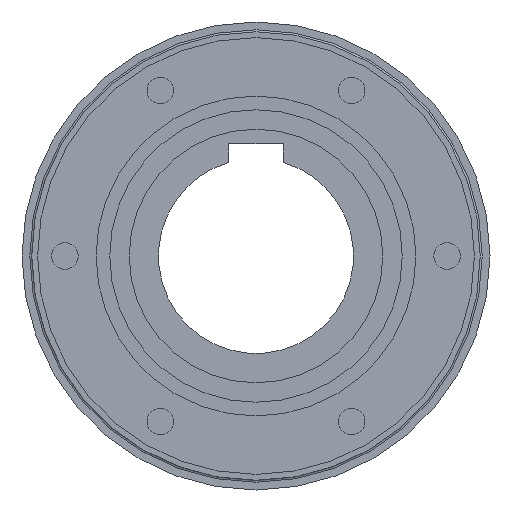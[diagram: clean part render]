
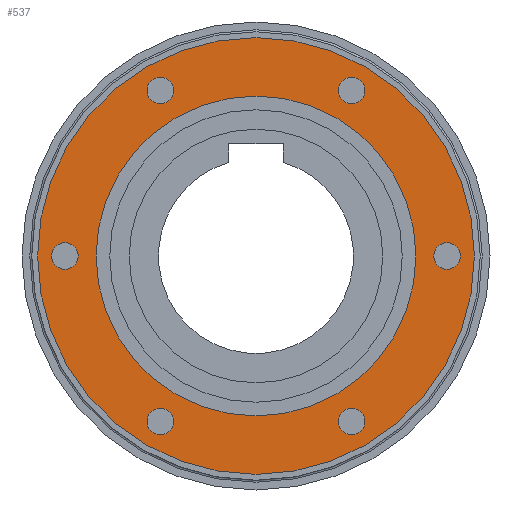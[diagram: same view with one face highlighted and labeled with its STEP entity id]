
A CAD part, left-side view. The second image highlights one B-rep face of the part: STEP entity #537.
In plain terms, the highlighted planar face has unit normal (-1, 0, 0).
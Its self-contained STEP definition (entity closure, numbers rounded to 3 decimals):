
#17=FACE_BOUND('',#123,.T.);
#18=FACE_BOUND('',#124,.T.);
#19=FACE_BOUND('',#125,.T.);
#20=FACE_BOUND('',#126,.T.);
#21=FACE_BOUND('',#127,.T.);
#22=FACE_BOUND('',#128,.T.);
#23=FACE_BOUND('',#129,.T.);
#42=PLANE('',#633);
#82=FACE_OUTER_BOUND('',#122,.T.);
#122=EDGE_LOOP('',(#462));
#123=EDGE_LOOP('',(#463));
#124=EDGE_LOOP('',(#464));
#125=EDGE_LOOP('',(#465));
#126=EDGE_LOOP('',(#466));
#127=EDGE_LOOP('',(#467));
#128=EDGE_LOOP('',(#468));
#129=EDGE_LOOP('',(#469));
#217=CIRCLE('',#587,56.);
#218=CIRCLE('',#589,41.);
#224=CIRCLE('',#598,3.4);
#226=CIRCLE('',#601,3.4);
#228=CIRCLE('',#604,3.4);
#230=CIRCLE('',#607,3.4);
#232=CIRCLE('',#610,3.4);
#234=CIRCLE('',#613,3.4);
#254=VERTEX_POINT('',#868);
#255=VERTEX_POINT('',#872);
#261=VERTEX_POINT('',#890);
#263=VERTEX_POINT('',#896);
#265=VERTEX_POINT('',#902);
#267=VERTEX_POINT('',#908);
#269=VERTEX_POINT('',#914);
#271=VERTEX_POINT('',#920);
#307=EDGE_CURVE('',#254,#254,#217,.T.);
#308=EDGE_CURVE('',#255,#255,#218,.T.);
#317=EDGE_CURVE('',#261,#261,#224,.T.);
#320=EDGE_CURVE('',#263,#263,#226,.T.);
#323=EDGE_CURVE('',#265,#265,#228,.T.);
#326=EDGE_CURVE('',#267,#267,#230,.T.);
#329=EDGE_CURVE('',#269,#269,#232,.T.);
#332=EDGE_CURVE('',#271,#271,#234,.T.);
#462=ORIENTED_EDGE('',*,*,#307,.F.);
#463=ORIENTED_EDGE('',*,*,#308,.T.);
#464=ORIENTED_EDGE('',*,*,#332,.T.);
#465=ORIENTED_EDGE('',*,*,#329,.T.);
#466=ORIENTED_EDGE('',*,*,#326,.T.);
#467=ORIENTED_EDGE('',*,*,#323,.T.);
#468=ORIENTED_EDGE('',*,*,#320,.T.);
#469=ORIENTED_EDGE('',*,*,#317,.T.);
#537=ADVANCED_FACE('',(#82,#17,#18,#19,#20,#21,#22,#23),#42,.T.);
#587=AXIS2_PLACEMENT_3D('',#870,#695,#696);
#589=AXIS2_PLACEMENT_3D('',#873,#699,#700);
#598=AXIS2_PLACEMENT_3D('',#891,#720,#721);
#601=AXIS2_PLACEMENT_3D('',#897,#727,#728);
#604=AXIS2_PLACEMENT_3D('',#903,#734,#735);
#607=AXIS2_PLACEMENT_3D('',#909,#741,#742);
#610=AXIS2_PLACEMENT_3D('',#915,#748,#749);
#613=AXIS2_PLACEMENT_3D('',#921,#755,#756);
#633=AXIS2_PLACEMENT_3D('',#969,#810,#811);
#695=DIRECTION('center_axis',(1.,0.,0.));
#696=DIRECTION('ref_axis',(0.,0.,-1.));
#699=DIRECTION('center_axis',(1.,0.,0.));
#700=DIRECTION('ref_axis',(0.,0.,-1.));
#720=DIRECTION('center_axis',(1.,0.,0.));
#721=DIRECTION('ref_axis',(0.,0.,-1.));
#727=DIRECTION('center_axis',(1.,0.,0.));
#728=DIRECTION('ref_axis',(0.,0.,-1.));
#734=DIRECTION('center_axis',(1.,0.,0.));
#735=DIRECTION('ref_axis',(0.,0.,-1.));
#741=DIRECTION('center_axis',(1.,0.,0.));
#742=DIRECTION('ref_axis',(0.,0.,-1.));
#748=DIRECTION('center_axis',(1.,0.,0.));
#749=DIRECTION('ref_axis',(0.,0.,-1.));
#755=DIRECTION('center_axis',(1.,0.,0.));
#756=DIRECTION('ref_axis',(0.,0.,-1.));
#810=DIRECTION('center_axis',(-1.,0.,0.));
#811=DIRECTION('ref_axis',(0.,0.,1.));
#868=CARTESIAN_POINT('',(15.,0.,56.));
#870=CARTESIAN_POINT('Origin',(15.,0.,0.));
#872=CARTESIAN_POINT('',(15.,0.,41.));
#873=CARTESIAN_POINT('Origin',(15.,0.,0.));
#890=CARTESIAN_POINT('',(15.,-49.,3.4));
#891=CARTESIAN_POINT('Origin',(15.,-49.,0.));
#896=CARTESIAN_POINT('',(15.,-24.5,-39.035));
#897=CARTESIAN_POINT('Origin',(15.,-24.5,-42.435));
#902=CARTESIAN_POINT('',(15.,24.5,-39.035));
#903=CARTESIAN_POINT('Origin',(15.,24.5,-42.435));
#908=CARTESIAN_POINT('',(15.,49.,3.4));
#909=CARTESIAN_POINT('Origin',(15.,49.,0.));
#914=CARTESIAN_POINT('',(15.,24.5,45.835));
#915=CARTESIAN_POINT('Origin',(15.,24.5,42.435));
#920=CARTESIAN_POINT('',(15.,-24.5,45.835));
#921=CARTESIAN_POINT('Origin',(15.,-24.5,42.435));
#969=CARTESIAN_POINT('Origin',(15.,0.,-48.5));
